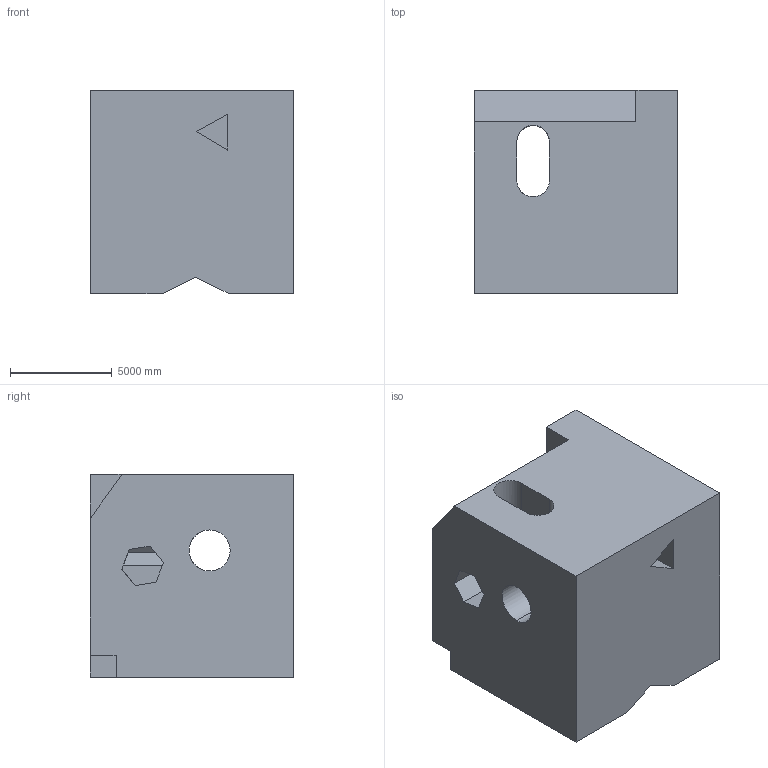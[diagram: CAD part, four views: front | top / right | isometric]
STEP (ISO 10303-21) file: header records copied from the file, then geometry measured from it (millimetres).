
FILE_DESCRIPTION (( 'STEP AP203' ), '1' );
FILE_NAME ('787.STEP', '2022-07-29T13:12:40', ( 'user' ), ( '' ), 'SwSTEP 2.0', 'SolidWorks 2021', '' );
FILE_SCHEMA (( 'CONFIG_CONTROL_DESIGN' ));
Length unit declared in the file: centimetre
Products named in the file (1): 787
Bounding box: 10000 x 10000 x 10000 mm (x, y, z)
Volume: 864524137206.5 mm3; surface area: 775310446.8 mm2
Topology: 1 solids, 1 shells, 41 faces, 125 edges, 84 vertices
Faces by surface type: plane 36, cylinder 5
Entity records: 1762 total; most frequent: CARTESIAN_POINT 561, ORIENTED_EDGE 250, DIRECTION 207, EDGE_CURVE 125, LINE 107, VECTOR 107, VERTEX_POINT 84, AXIS2_PLACEMENT_3D 50
